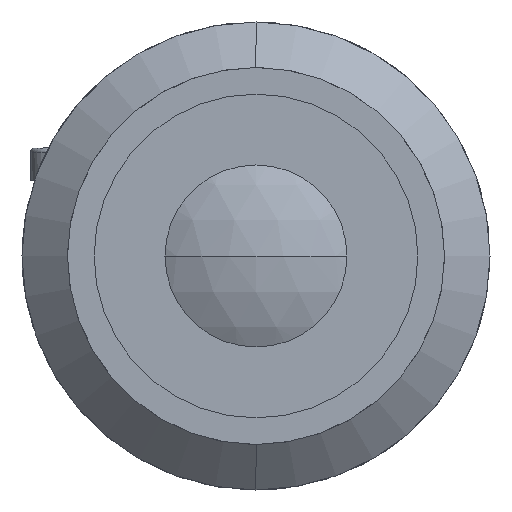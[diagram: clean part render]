
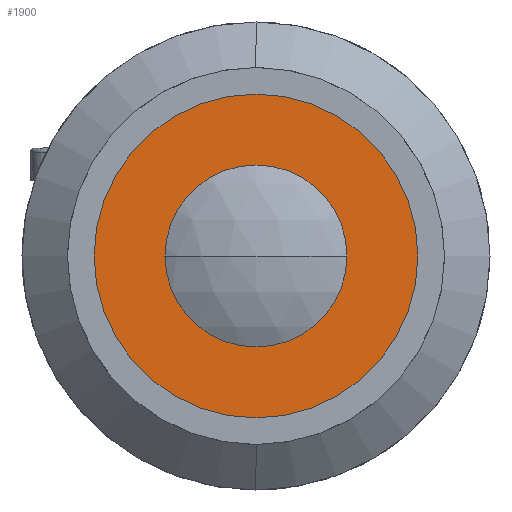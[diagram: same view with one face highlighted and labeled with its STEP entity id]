
A CAD part, left-side view. The second image highlights one B-rep face of the part: STEP entity #1900.
In plain terms, the highlighted planar face has unit normal (-1, 0, 0).
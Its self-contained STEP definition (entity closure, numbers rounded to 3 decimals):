
#52 = CARTESIAN_POINT ( 'NONE',  ( 3.8, 0., -13.5 ) ) ;
#77 = EDGE_CURVE ( 'NONE', #3126, #1379, #861, .T. ) ;
#256 = CARTESIAN_POINT ( 'NONE',  ( 3.8, 0., 13.5 ) ) ;
#462 = FACE_OUTER_BOUND ( 'NONE', #1881, .T. ) ;
#538 = VERTEX_POINT ( 'NONE', #256 ) ;
#579 = AXIS2_PLACEMENT_3D ( 'NONE', #3234, #2168, #2184 ) ;
#674 = CARTESIAN_POINT ( 'NONE',  ( 3.8, 0., 0. ) ) ;
#681 = EDGE_CURVE ( 'NONE', #1379, #3126, #3372, .T. ) ;
#861 = CIRCLE ( 'NONE', #3014, 7. ) ;
#957 = DIRECTION ( 'NONE',  ( 0., 0., 1. ) ) ;
#1093 = DIRECTION ( 'NONE',  ( -1., 0., 0. ) ) ;
#1379 = VERTEX_POINT ( 'NONE', #1533 ) ;
#1533 = CARTESIAN_POINT ( 'NONE',  ( 3.8, 0., -7. ) ) ;
#1568 = CARTESIAN_POINT ( 'NONE',  ( 3.8, 0., 0. ) ) ;
#1762 = FACE_BOUND ( 'NONE', #2019, .T. ) ;
#1840 = DIRECTION ( 'NONE',  ( 0., 0., 1. ) ) ;
#1881 = EDGE_LOOP ( 'NONE', ( #2740, #2751 ) ) ;
#1900 = ADVANCED_FACE ( 'NONE', ( #1762, #462 ), #1918, .F. ) ;
#1918 = PLANE ( 'NONE',  #579 ) ;
#2019 = EDGE_LOOP ( 'NONE', ( #2528, #2574 ) ) ;
#2077 = CIRCLE ( 'NONE', #3458, 13.5 ) ;
#2168 = DIRECTION ( 'NONE',  ( 1., 0., 0. ) ) ;
#2184 = DIRECTION ( 'NONE',  ( 0., 0., -1. ) ) ;
#2320 = AXIS2_PLACEMENT_3D ( 'NONE', #674, #2599, #957 ) ;
#2327 = VERTEX_POINT ( 'NONE', #52 ) ;
#2505 = CARTESIAN_POINT ( 'NONE',  ( 3.8, 0., 7. ) ) ;
#2528 = ORIENTED_EDGE ( 'NONE', *, *, #77, .F. ) ;
#2574 = ORIENTED_EDGE ( 'NONE', *, *, #681, .F. ) ;
#2597 = EDGE_CURVE ( 'NONE', #2327, #538, #2077, .T. ) ;
#2599 = DIRECTION ( 'NONE',  ( -1., 0., 0. ) ) ;
#2735 = CARTESIAN_POINT ( 'NONE',  ( 3.8, 0., 0. ) ) ;
#2740 = ORIENTED_EDGE ( 'NONE', *, *, #3427, .T. ) ;
#2751 = ORIENTED_EDGE ( 'NONE', *, *, #2597, .T. ) ;
#2773 = CIRCLE ( 'NONE', #2811, 13.5 ) ;
#2811 = AXIS2_PLACEMENT_3D ( 'NONE', #1568, #3404, #1840 ) ;
#3006 = DIRECTION ( 'NONE',  ( 0., 0., 1. ) ) ;
#3014 = AXIS2_PLACEMENT_3D ( 'NONE', #3359, #3341, #3335 ) ;
#3126 = VERTEX_POINT ( 'NONE', #2505 ) ;
#3234 = CARTESIAN_POINT ( 'NONE',  ( 3.8, 13.5, 0. ) ) ;
#3335 = DIRECTION ( 'NONE',  ( 0., 0., 1. ) ) ;
#3341 = DIRECTION ( 'NONE',  ( -1., 0., 0. ) ) ;
#3359 = CARTESIAN_POINT ( 'NONE',  ( 3.8, 0., 0. ) ) ;
#3372 = CIRCLE ( 'NONE', #2320, 7. ) ;
#3404 = DIRECTION ( 'NONE',  ( -1., 0., 0. ) ) ;
#3427 = EDGE_CURVE ( 'NONE', #538, #2327, #2773, .T. ) ;
#3458 = AXIS2_PLACEMENT_3D ( 'NONE', #2735, #1093, #3006 ) ;
